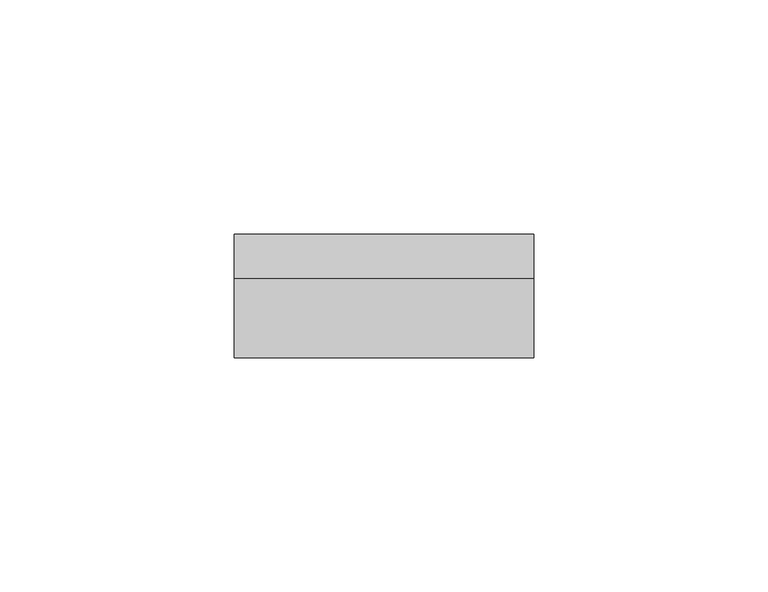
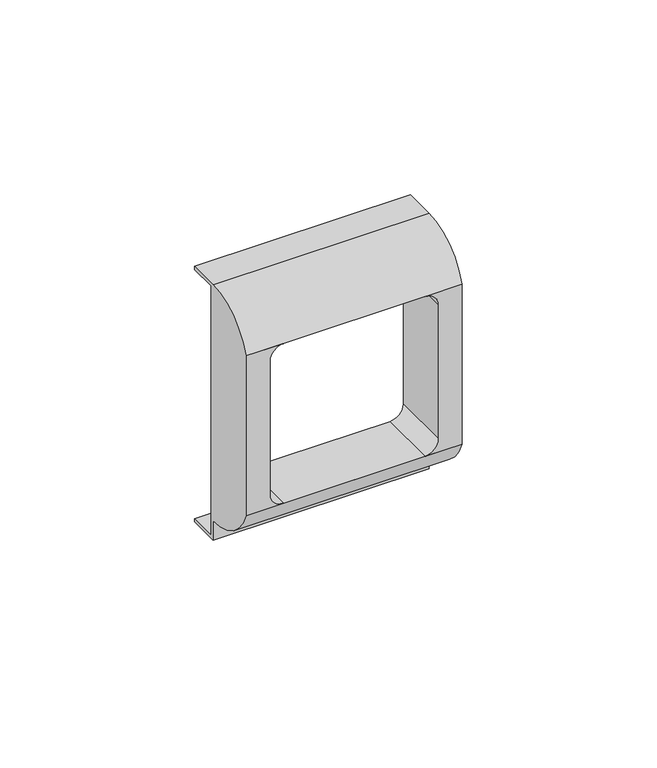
"""IFC4 building model written with IfcOpenShell, lengths in millimetres: proxy geometry."""

import ifcopenshell
import ifcopenshell.guid

model = None  # the IFC model being written
_history = None  # IfcOwnerHistory: only IFC2X3 demands one
_inside = {}  # id of a spatial element -> (the spatial element, [elements in it])
_under = {}  # id of a project, library or spatial element -> (it, [spatial elements below it])
_declared = {}  # id of a project -> (the project, [libraries it declares])
_typed = {}  # id of a type object -> (the type object, [elements of that type])
_made_of = {}  # id of a material, layer set ... -> (it, [elements and type objects made of it])


def new_model(schema):
    """Start an empty IFC model of exactly this schema.

    Asked for "IFC4X3", IfcOpenShell would pick the latest addendum, in which some entities
    have other attributes; the version numbers below select the first issue.
    IFC2X3 requires an IfcOwnerHistory on every rooted entity: one is made here for all.
    """
    global model, _history
    if schema == "IFC4X3":
        model = ifcopenshell.file(schema_version=(4, 3, 0, 0))
    else:
        model = ifcopenshell.file(schema=schema)
    _inside.clear()
    _under.clear()
    _declared.clear()
    _typed.clear()
    _made_of.clear()
    _history = None
    if model.schema == "IFC2X3":
        org = make("IfcOrganization", Name="unknown")
        user = make(
            "IfcPersonAndOrganization",
            ThePerson=make("IfcPerson", FamilyName="unknown"),
            TheOrganization=org,
        )
        app = make(
            "IfcApplication",
            ApplicationDeveloper=org,
            Version="unknown",
            ApplicationFullName="unknown",
            ApplicationIdentifier="unknown",
        )
        _history = make(
            "IfcOwnerHistory",
            OwningUser=user,
            OwningApplication=app,
            ChangeAction="ADDED",
            CreationDate=0,
        )
    return model


def make(cls, **values):
    """One entity of the class cls with the attributes given. An attribute that is None is left unset."""
    return model.create_entity(
        cls, **{name: value for name, value in values.items() if value is not None}
    )


def rooted(cls, **values):
    """An entity with a GlobalId (a new one), such as an element, a storey or a relation."""
    return make(cls, GlobalId=ifcopenshell.guid.new(), OwnerHistory=_history, **values)


def si_unit(unit_type, name, prefix=None):
    """IfcSIUnit, for example si_unit("LENGTHUNIT", "METRE", prefix="MILLI")."""
    return make("IfcSIUnit", UnitType=unit_type, Prefix=prefix, Name=name)


def assignment(units):
    """IfcUnitAssignment: the units of a project."""
    return None if units is None else make("IfcUnitAssignment", Units=units)


def point(xyz):
    """IfcCartesianPoint."""
    return None if xyz is None else make("IfcCartesianPoint", Coordinates=xyz)


def direction(xyz):
    """IfcDirection."""
    return None if xyz is None else make("IfcDirection", DirectionRatios=xyz)


def frame(location, z_axis=None, x_axis=None):
    """IfcAxis2Placement3D, a coordinate frame: its origin and axes. An axis left out is left unset."""
    return make(
        "IfcAxis2Placement3D",
        Location=point(location),
        Axis=direction(z_axis),
        RefDirection=direction(x_axis),
    )


def origin():
    """The frame at (0, 0, 0) with its axes left unset."""
    return frame((0.0, 0.0, 0.0))


def place(relative_to, where):
    """IfcLocalPlacement: puts the frame where relative to a parent placement (None: the world)."""
    return make(
        "IfcLocalPlacement", PlacementRelTo=relative_to, RelativePlacement=where
    )


def context(
    kind, dimensions, precision=None, world=None, true_north=None, identifier=None
):
    """IfcGeometricRepresentationContext, for example the 3D "Model" context."""
    return make(
        "IfcGeometricRepresentationContext",
        ContextIdentifier=identifier,
        ContextType=kind,
        CoordinateSpaceDimension=dimensions,
        Precision=precision,
        WorldCoordinateSystem=world,
        TrueNorth=true_north,
    )


def project(units=None, contexts=None):
    """IfcProject with its units and contexts."""
    return rooted(
        "IfcProject",
        Name="project",
        RepresentationContexts=contexts,
        UnitsInContext=assignment(units),
    )


def spatial(cls, under=None, at=None, **own):
    """A site, building, storey or space (cls), placed at a placement, below another one or the project."""
    s = rooted(cls, ObjectPlacement=at, **own)
    if under is not None:
        _under.setdefault(under.id(), (under, []))[1].append(s)
    return s


def polyline(points):
    """IfcPolyline through the points."""
    return make("IfcPolyline", Points=[point(p) for p in points])


def circle_curve(where, radius):
    """IfcCircle in the frame where."""
    return make("IfcCircle", Position=where, Radius=radius)


def shape(context_of_items, identifier, shape_type, items):
    """IfcShapeRepresentation: the items that make up one representation, for example the "Body"."""
    return make(
        "IfcShapeRepresentation",
        ContextOfItems=context_of_items,
        RepresentationIdentifier=identifier,
        RepresentationType=shape_type,
        Items=items,
    )


def source(mapping_origin, context_of_items, identifier, shape_type, items):
    """IfcRepresentationMap: a shape defined once, which mapped items show again and again."""
    return make(
        "IfcRepresentationMap",
        MappingOrigin=mapping_origin,
        MappedRepresentation=shape(context_of_items, identifier, shape_type, items),
    )


def transform(
    local_origin,
    x_axis=None,
    y_axis=None,
    z_axis=None,
    scale=None,
    scale2=None,
    scale3=None,
    uniform=True,
):
    """IfcCartesianTransformationOperator3D, or its non-uniform kind. x_axis, y_axis, z_axis: its Axis1, 2, 3."""
    if uniform:
        return make(
            "IfcCartesianTransformationOperator3D",
            Axis1=direction(x_axis),
            Axis2=direction(y_axis),
            LocalOrigin=point(local_origin),
            Scale=scale,
            Axis3=direction(z_axis),
        )
    return make(
        "IfcCartesianTransformationOperator3DnonUniform",
        Axis1=direction(x_axis),
        Axis2=direction(y_axis),
        LocalOrigin=point(local_origin),
        Scale=scale,
        Axis3=direction(z_axis),
        Scale2=scale2,
        Scale3=scale3,
    )


def mapped(mapping_source, mapping_target):
    """IfcMappedItem: shows the shape of a source again, moved by a transform."""
    return make(
        "IfcMappedItem", MappingSource=mapping_source, MappingTarget=mapping_target
    )


def made_of(thing, what):
    """Note that an element or type object is made of a material, layer set ...; save() writes the relation."""
    if what is not None:
        _made_of.setdefault(what.id(), (what, []))[1].append(thing)
    return thing


def element(
    cls,
    number,
    at=None,
    inside=None,
    cuts=None,
    type_object=None,
    material=None,
    context=None,
    identifier="Body",
    shape_type=None,
    held_by="IfcProductDefinitionShape",
    body=None,
    shapes=None,
    **own,
):
    """One element of the class cls, such as IfcWall. Its Tag is "e" and its number.

    at: its placement. inside: the storey or other place that contains it. cuts: it is an
    opening in that element (IfcRelVoidsElement). A single representation is given by context,
    identifier, shape_type and body (its items); several are given by shapes. held_by: the class
    of the entity that holds the representations. save() writes the other relations.
    """
    e = rooted(cls, Tag="e%d" % number, ObjectPlacement=at, **own)
    if body is not None:
        shapes = [shape(context, identifier, shape_type, body)]
    if shapes is not None:
        e.Representation = make(held_by, Representations=shapes)
    if inside is not None:
        _inside.setdefault(inside.id(), (inside, []))[1].append(e)
    if cuts is not None:
        rooted(
            "IfcRelVoidsElement", RelatingBuildingElement=cuts, RelatedOpeningElement=e
        )
    if type_object is not None:
        _typed.setdefault(type_object.id(), (type_object, []))[1].append(e)
    return made_of(e, material)


def aggregate(whole, parts):
    """IfcRelAggregates: a whole, such as a stair, and the parts it consists of."""
    return rooted("IfcRelAggregates", RelatingObject=whole, RelatedObjects=parts)


def save(model, path):
    """Write the relations noted so far, then the file.

    IfcRelAggregates (storeys below a building ...), IfcRelContainedInSpatialStructure (elements
    in a storey), IfcRelDefinesByType, IfcRelAssociatesMaterial and IfcRelDeclares: one each for
    every whole, place, type object, material and project.
    """
    for whole, parts in _under.values():
        aggregate(whole, parts)
    for where, things in _inside.values():
        rooted(
            "IfcRelContainedInSpatialStructure",
            RelatedElements=things,
            RelatingStructure=where,
        )
    for kind, things in _typed.values():
        rooted("IfcRelDefinesByType", RelatedObjects=things, RelatingType=kind)
    for what, things in _made_of.values():
        rooted("IfcRelAssociatesMaterial", RelatedObjects=things, RelatingMaterial=what)
    for by, libraries in _declared.values():
        rooted("IfcRelDeclares", RelatingContext=by, RelatedDefinitions=libraries)
    model.write(path)


def plane_surface(at):
    """IfcPlane: the flat surface through the origin of the frame at, square to its z axis."""
    return make("IfcPlane", Position=at)


def cylinder_surface(at, radius):
    """IfcCylindricalSurface: all points at the distance radius from the z axis of the frame at."""
    return make("IfcCylindricalSurface", Position=at, Radius=radius)


def revolved_surface(curve, axis_point, axis_direction):
    """IfcSurfaceOfRevolution: the curve turned about the line through axis_point along axis_direction."""
    return make(
        "IfcSurfaceOfRevolution",
        SweptCurve=make("IfcArbitraryOpenProfileDef", ProfileType="CURVE", Curve=curve),
        AxisPosition=make("IfcAxis1Placement", Location=point(axis_point), Axis=direction(axis_direction)),
    )


def advanced_brep(points, edges, surfaces, faces):
    """IfcAdvancedBrep: a solid bounded by faces that lie on surfaces and meet in shared edges.

    An edge is (start, end): straight between two places in points (the first is 0);
    or (start, end, curve); or (start, end, curve, False) where it runs against its curve.
    A face is (place in surfaces, loops), or (place, loops, False) where it looks against
    its surface's normal. A loop lists edges by number (the first is 1), with a minus sign
    where the edge is run from its end to its start. The first loop is the outer one.
    """
    corners = [point(p) for p in points]
    vertices = [make("IfcVertexPoint", VertexGeometry=c) for c in corners]
    made = []
    for start, end, *more in edges:
        made.append(
            make(
                "IfcEdgeCurve",
                EdgeStart=vertices[start],
                EdgeEnd=vertices[end],
                EdgeGeometry=more[0] if more else make("IfcPolyline", Points=[corners[start], corners[end]]),
                SameSense=more[1] if len(more) > 1 else True,
            )
        )
    hull = []
    for where, loops, *sense in faces:
        bounds = []
        for j, loop in enumerate(loops):
            ring = [make("IfcOrientedEdge", EdgeElement=made[abs(k) - 1], Orientation=k > 0) for k in loop]
            bounds.append(
                make(
                    "IfcFaceOuterBound" if j == 0 else "IfcFaceBound",
                    Bound=make("IfcEdgeLoop", EdgeList=ring),
                    Orientation=True,
                )
            )
        hull.append(make("IfcAdvancedFace", Bounds=bounds, FaceSurface=surfaces[where], SameSense=sense[0] if sense else True))
    return make("IfcAdvancedBrep", Outer=make("IfcClosedShell", CfsFaces=hull))


def electrical_fixtures_22397321(model_context):
    return source(origin(), model_context, "Body", "AdvancedBrep", [
        advanced_brep(
        [(32.0, 8.4, 39.0), (32.0, 8.4, 40.0), (32.0, -1.0, 40.0), (32.0, -18.0, 28.0), (32.0, -18.0, -22.0), (32.0, -1.0, -34.0), (32.0, -1.0, -40.0), (32.0, 8.4, -40.0), (32.0, 8.4, -39.0), (32.0, 0.0, -39.0), (32.0, 0.0, 39.0), (-32.0, 8.4, 39.0), (-32.0, 0.0, 39.0), (-32.0, 0.0, -39.0), (-32.0, 8.4, -39.0), (-32.0, 8.4, -40.0), (-32.0, -1.0, -40.0), (-32.0, -1.0, -34.0), (-32.0, -18.0, -22.0), (-32.0, -18.0, 28.0), (-32.0, -1.0, 40.0), (-32.0, 8.4, 40.0), (20.9686648, -18.0, 28.0), (25.0, -18.0, 23.9686648), (25.0, -18.0, -17.9686648), (20.9686648, -18.0, -22.0), (-20.9686648, -18.0, -22.0), (-25.0, -18.0, -17.9686648), (-25.0, -18.0, 23.9686648), (-20.9686648, -18.0, 28.0), (20.9686648, 0.0, 28.0), (-20.9686648, 0.0, 28.0), (-25.0, 0.0, 23.9686648), (-25.0, 0.0, -17.9686648), (-20.9686648, 0.0, -22.0), (20.9686648, 0.0, -22.0), (25.0, 0.0, -17.9686648), (25.0, 0.0, 23.9686648)],
        [
            (0, 1),
            (1, 2),
            (2, 3, circle_curve(frame((32.0, -1.0, 21.9583333), z_axis=(1.0, 0.0, 0.0), x_axis=(0.0, 1.0, 0.0)), 18.0416667)),
            (3, 4),
            (4, 5, circle_curve(frame((32.0, -1.0, -15.9583333), z_axis=(1.0, 0.0, 0.0), x_axis=(0.0, 1.0, 0.0)), 18.0416667)),
            (5, 6),
            (6, 7),
            (7, 8),
            (8, 9),
            (9, 10),
            (10, 0),
            (11, 12),
            (12, 13),
            (13, 14),
            (14, 15),
            (15, 16),
            (16, 17),
            (17, 18, circle_curve(frame((-32.0, -1.0, -15.9583333), z_axis=(-1.0, 0.0, 0.0), x_axis=(0.0, 1.0, 0.0)), 18.0416667)),
            (18, 19),
            (19, 20, circle_curve(frame((-32.0, -1.0, 21.9583333), z_axis=(-1.0, 0.0, 0.0), x_axis=(0.0, 1.0, 0.0)), 18.0416667)),
            (20, 21),
            (21, 11),
            (0, 11),
            (21, 1),
            (20, 2),
            (3, 22),
            (22, 23, circle_curve(frame((20.9686648, -18.0, 23.9686648), z_axis=(0.0, 1.0, 0.0), x_axis=(1.0, 0.0, 0.0)), 4.0313352)),
            (23, 24),
            (24, 25, circle_curve(frame((20.9686648, -18.0, -17.9686648), z_axis=(0.0, 1.0, 0.0), x_axis=(1.0, 0.0, 0.0)), 4.0313352)),
            (25, 4),
            (18, 26),
            (26, 27, circle_curve(frame((-20.9686648, -18.0, -17.9686648), z_axis=(0.0, 1.0, 0.0), x_axis=(1.0, 0.0, 0.0)), 4.0313352)),
            (27, 28),
            (28, 29, circle_curve(frame((-20.9686648, -18.0, 23.9686648), z_axis=(0.0, 1.0, 0.0), x_axis=(1.0, 0.0, 0.0)), 4.0313352)),
            (29, 19),
            (5, 17),
            (16, 6),
            (15, 7),
            (14, 8),
            (13, 9),
            (12, 10),
            (30, 31),
            (31, 32, circle_curve(frame((-20.9686648, 0.0, 23.9686648), z_axis=(0.0, -1.0, 0.0), x_axis=(1.0, 0.0, 0.0)), 4.0313352)),
            (32, 33),
            (33, 34, circle_curve(frame((-20.9686648, 0.0, -17.9686648), z_axis=(0.0, -1.0, 0.0), x_axis=(1.0, 0.0, 0.0)), 4.0313352)),
            (34, 35),
            (35, 36, circle_curve(frame((20.9686648, 0.0, -17.9686648), z_axis=(0.0, -1.0, 0.0), x_axis=(1.0, 0.0, 0.0)), 4.0313352)),
            (36, 37),
            (37, 30, circle_curve(frame((20.9686648, 0.0, 23.9686648), z_axis=(0.0, -1.0, 0.0), x_axis=(1.0, 0.0, 0.0)), 4.0313352)),
            (29, 22),
            (25, 26),
            (29, 31),
            (30, 22),
            (28, 32),
            (27, 33),
            (26, 34),
            (25, 35),
            (24, 36),
            (23, 37),
        ],
        [
            plane_surface(frame((32.0, 8.4, 40.0), z_axis=(1.0, 0.0, 0.0), x_axis=(0.0, 0.0, 1.0))),
            plane_surface(frame((-32.0, 8.4, 40.0), z_axis=(-1.0, 0.0, 0.0), x_axis=(0.0, 0.0, -1.0))),
            plane_surface(frame((32.0, 8.4, 39.0), z_axis=(0.0, 1.0, 0.0), x_axis=(-1.0, 0.0, 0.0))),
            plane_surface(frame((32.0, 8.4, 40.0), z_axis=(0.0, 0.0, 1.0), x_axis=(-1.0, 0.0, 0.0))),
            plane_surface(frame((32.0, -18.0, 28.0), z_axis=(0.0, -1.0, 0.0), x_axis=(-1.0, 0.0, 0.0))),
            plane_surface(frame((32.0, -1.0, -34.0), z_axis=(0.0, -1.0, 0.0), x_axis=(-1.0, 0.0, 0.0))),
            plane_surface(frame((32.0, -1.0, -40.0), z_axis=(0.0, 0.0, -1.0), x_axis=(-1.0, 0.0, 0.0))),
            plane_surface(frame((32.0, 8.4, -40.0), z_axis=(0.0, 1.0, 0.0), x_axis=(-1.0, 0.0, 0.0))),
            plane_surface(frame((32.0, 8.4, -39.0), z_axis=(0.0, 0.0, 1.0), x_axis=(-1.0, 0.0, 0.0))),
            plane_surface(frame((32.0, 0.0, -39.0), z_axis=(0.0, 1.0, 0.0), x_axis=(-1.0, 0.0, 0.0))),
            plane_surface(frame((32.0, 0.0, 39.0), z_axis=(0.0, 0.0, -1.0), x_axis=(-1.0, 0.0, 0.0))),
            cylinder_surface(frame((-32.0, -1.0, 21.9583333), z_axis=(1.0, 0.0, 0.0), x_axis=(0.0, 1.0, 0.0)), 18.0416667),
            cylinder_surface(frame((-32.0, -1.0, -15.9583333), z_axis=(1.0, 0.0, 0.0), x_axis=(0.0, 1.0, 0.0)), 18.0416667),
            plane_surface(frame((20.9686648, -18.0, 28.0), z_axis=(0.0, 0.0, -1.0), x_axis=(0.0, 1.0, 0.0))),
            revolved_surface(polyline([(-16.937329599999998, -18.0, 23.9686648), (-16.937329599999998, 0.0, 23.9686648)]), (-20.9686648, 0.0, 23.9686648), (0.0, -1.0, 0.0)),
            plane_surface(frame((-25.0, -18.0, 23.9686648), z_axis=(1.0, 0.0, 0.0), x_axis=(0.0, 1.0, 0.0))),
            revolved_surface(polyline([(-16.937329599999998, -18.0, -17.9686648), (-16.937329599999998, 0.0, -17.9686648)]), (-20.9686648, 0.0, -17.9686648), (0.0, -1.0, 0.0)),
            plane_surface(frame((-20.9686648, -18.0, -22.0), z_axis=(0.0, 0.0, 1.0), x_axis=(0.0, 1.0, 0.0))),
            revolved_surface(polyline([(25.0, -18.0, -17.9686648), (25.0, 0.0, -17.9686648)]), (20.9686648, 0.0, -17.9686648), (0.0, -1.0, 0.0)),
            plane_surface(frame((25.0, -18.0, -17.9686648), z_axis=(-1.0, 0.0, 0.0), x_axis=(0.0, 1.0, 0.0))),
            revolved_surface(polyline([(25.0, -18.0, 23.9686648), (25.0, 0.0, 23.9686648)]), (20.9686648, 0.0, 23.9686648), (0.0, -1.0, 0.0)),
        ],
        [
            (0, [[1, 2, 3, 4, 5, 6, 7, 8, 9, 10, 11]]),
            (1, [[12, 13, 14, 15, 16, 17, 18, 19, 20, 21, 22]]),
            (2, [[-1, 23, -22, 24]]),
            (3, [[-2, -24, -21, 25]]),
            (4, [[-4, 26, 27, 28, 29, 30]]),
            (4, [[-19, 31, 32, 33, 34, 35]]),
            (5, [[-6, 36, -17, 37]]),
            (6, [[-7, -37, -16, 38]]),
            (7, [[-8, -38, -15, 39]]),
            (8, [[-9, -39, -14, 40]]),
            (9, [[-10, -40, -13, 41], [42, 43, 44, 45, 46, 47, 48, 49]]),
            (10, [[-11, -41, -12, -23]]),
            (11, [[-3, -25, -20, -35, 50, -26]]),
            (12, [[-5, -30, 51, -31, -18, -36]]),
            (13, [[52, -42, 53, -50]]),
            (14, [[-52, -34, 54, -43]]),
            (15, [[-54, -33, 55, -44]]),
            (16, [[-55, -32, 56, -45]]),
            (17, [[-56, -51, 57, -46]]),
            (18, [[-57, -29, 58, -47]]),
            (19, [[-58, -28, 59, -48]]),
            (20, [[-53, -49, -59, -27]]),
        ],
    ),
    ])


if __name__ == "__main__":
    model = new_model("IFC4")
    model_context = context("Model", 3, world=origin())
    ifc_project = project(units=[si_unit("LENGTHUNIT", "METRE", prefix="MILLI")], contexts=[model_context])
    site = spatial("IfcSite", under=ifc_project)
    building = spatial("IfcBuilding", under=site)
    placement = place(None, origin())
    electrical_fixtures_shape = electrical_fixtures_22397321(model_context)
    element("IfcBuildingElementProxy", 1, Name="КНС_РамкаСуппорт_ILC_DKC : Серия \"Viva\"", ObjectType="КНС_РамкаСуппорт_ILC_DKC : Серия \"Viva\"", at=placement, inside=building, context=model_context, shape_type="MappedRepresentation", body=[
        mapped(electrical_fixtures_shape, transform((0.0, 0.0, 0.0), x_axis=(1.0, 0.0, 0.0), y_axis=(0.0, 1.0, 0.0), z_axis=(0.0, 0.0, 1.0))),
    ])
    save(model, "model.ifc")
